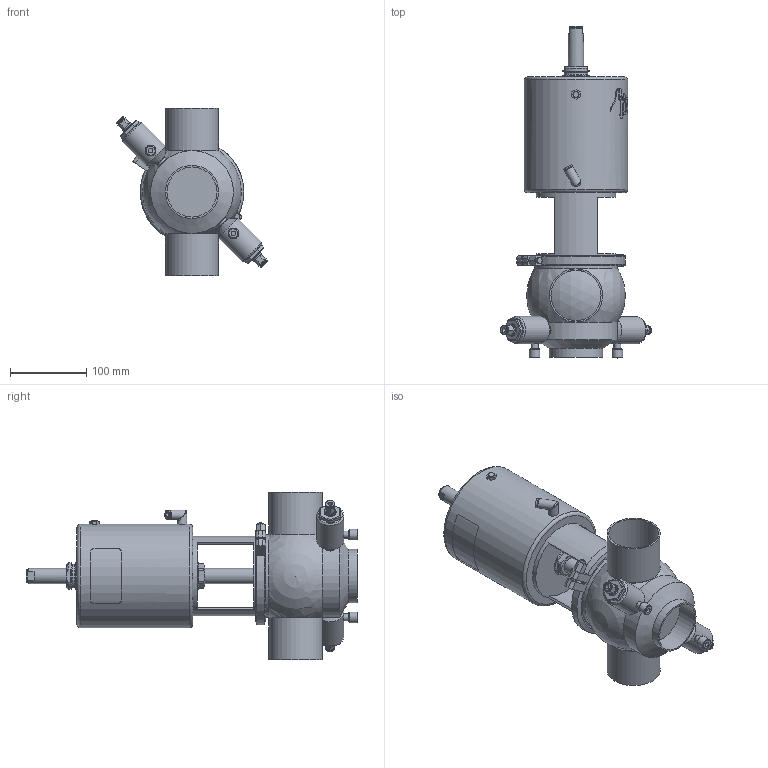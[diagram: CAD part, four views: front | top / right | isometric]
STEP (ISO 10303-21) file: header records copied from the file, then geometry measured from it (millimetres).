
FILE_DESCRIPTION (( 'STEP AP214' ), '1' );
FILE_NAME ('INNOVA D T W DIN 065 T3 AS NC_10.246.16.0002.STEP', '2024-08-08T09:15:27', ( '' ), ( '' ), 'SwSTEP 2.0', 'SolidWorks 2023', '' );
FILE_SCHEMA (( 'AUTOMOTIVE_DESIGN' ));
Length unit declared in the file: millimetre
Products named in the file (5): 10.246.15.0002_DIN 065; 10.240.15.0014_T3 AS P0; INNOVA D T W DIN 065 T3 AS NC_10.246.16.0002; 10.240.15.0001_DN 065; 10.240.15.0010_DN 065
Assembly tree (4 placements, depth 2):
  INNOVA D T W DIN 065 T3 AS NC_10.246.16.0002
    10.246.15.0002_DIN 065
    10.240.15.0010_DN 065
    10.240.15.0014_T3 AS P0
    10.240.15.0001_DN 065
Bounding box: 198.84 x 436.5 x 220 mm (x, y, z)
Volume: 3817974.6 mm3; surface area: 325880.6 mm2
Topology: 4 solids, 4 shells, 426 faces, 1066 edges, 691 vertices
Faces by surface type: plane 227, cylinder 85, bspline 80, cone 27, torus 4, sphere 3
Full cylindrical faces by diameter (mm): 6 x4, 6.15 x1, 8 x3, 8.5 x1, 9 x2, 10 x2, 10.5 x1, 12 x4, 12.5 x3, 14 x4, 15 x2, 16 x1, 20 x2, 31 x1, 34.5 x2, 36 x2, 36.5 x1, 66 x3, 70 x3, 105 x1, 109 x2, 121 x2, 136 x1
Entity records: 23084 total; most frequent: CARTESIAN_POINT 12044, ORIENTED_EDGE 1932, DIRECTION 1619, EDGE_CURVE 966, VERTEX_POINT 669, AXIS2_PLACEMENT_3D 611, EDGE_LOOP 555, FACE_OUTER_BOUND 481
